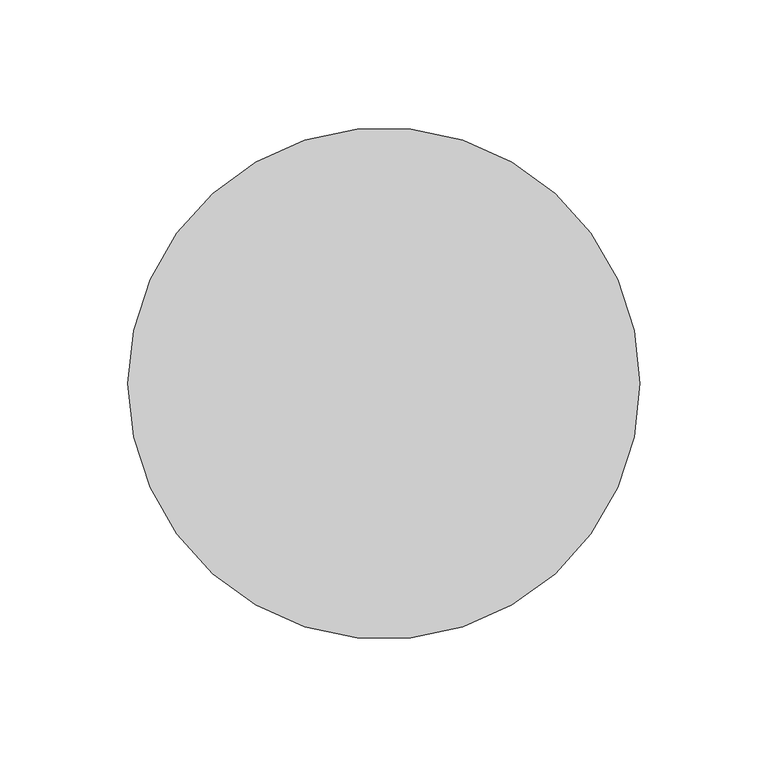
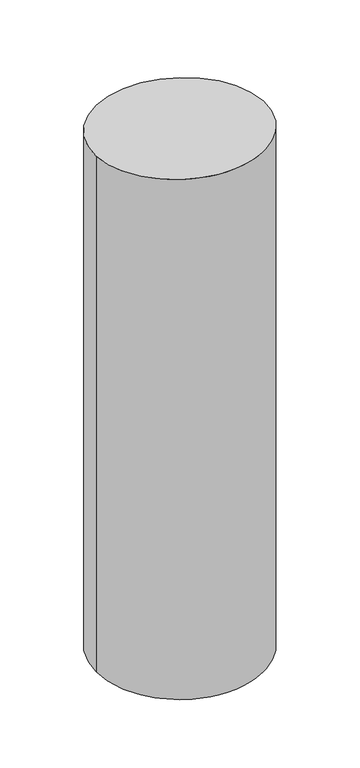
"""IFC4 building model written with IfcOpenShell, lengths in millimetres: member geometry, 矩形竖梃 : 圆瓦."""

from ifc_helpers import new_model, si_unit, frame, origin, origin_with_axes, place, context, project, spatial, circle_curve, ellipse_curve, source, transform, mapped, element, save
from ifc_brep_helpers import plane_surface, cylinder_surface, advanced_brep


def member_f4842659(model_context):
    return source(origin(), model_context, "Body", "AdvancedBrep", [
        advanced_brep(
        [(100.0, 0.0, -653.4425751), (-100.0, 0.0, -653.4425751), (-100.0, 0.0, 0.0), (100.0, 0.0, 0.0)],
        [
            (0, 1, circle_curve(frame((0.0, 0.0, -653.4425751), z_axis=(0.0, 0.0, -1.0), x_axis=(1.0, 0.0, 0.0)), 100.0)),
            (1, 0, circle_curve(frame((0.0, 0.0, -653.4425751), z_axis=(0.0, 0.0, -1.0), x_axis=(1.0, 0.0, 0.0)), 100.0)),
            (2, 3, ellipse_curve(frame((0.0, 0.0, 0.0), z_axis=(0.0, -0.06182099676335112, -0.9980872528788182), x_axis=(0.0, -0.9980872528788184, 0.061820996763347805)), 100.1916413, 100.0)),
            (3, 0),
            (1, 2),
            (3, 2, ellipse_curve(frame((0.0, 0.0, 0.0), z_axis=(0.0, -0.06182099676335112, -0.9980872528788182), x_axis=(0.0, -0.9980872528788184, 0.061820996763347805)), 100.1916413, 100.0)),
        ],
        [
            plane_surface(frame((0.0, -100.0, -653.4425751), z_axis=(0.0, 0.0, -1.0), x_axis=(-1.0, 0.0, 0.0))),
            cylinder_surface(origin_with_axes(), 100.0),
            plane_surface(frame((-304.8, 0.0, 0.0), z_axis=(0.0, 0.06182099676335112, 0.9980872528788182), x_axis=(0.0, 0.9980872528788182, -0.06182099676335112))),
        ],
        [
            (0, [[1, 2]]),
            (1, [[3, 4, -2, 5]]),
            (1, [[6, -5, -1, -4]]),
            (2, [[-3, -6]]),
        ],
    ),
    ])


if __name__ == "__main__":
    model = new_model("IFC4")
    model_context = context("Model", 3, world=origin())
    ifc_project = project(units=[si_unit("LENGTHUNIT", "METRE", prefix="MILLI")], contexts=[model_context])
    site = spatial("IfcSite", under=ifc_project)
    building = spatial("IfcBuilding", under=site)
    placement = place(None, origin())
    member_shape = member_f4842659(model_context)
    element("IfcMember", 1, ObjectType="矩形竖梃 : 圆瓦", at=placement, inside=building, context=model_context, shape_type="MappedRepresentation", body=[
        mapped(member_shape, transform((0.0, 0.0, 0.0), x_axis=(1.0, 0.0, 0.0), y_axis=(0.0, 1.0, 0.0), z_axis=(0.0, 0.0, 1.0))),
    ])
    save(model, "model.ifc")
